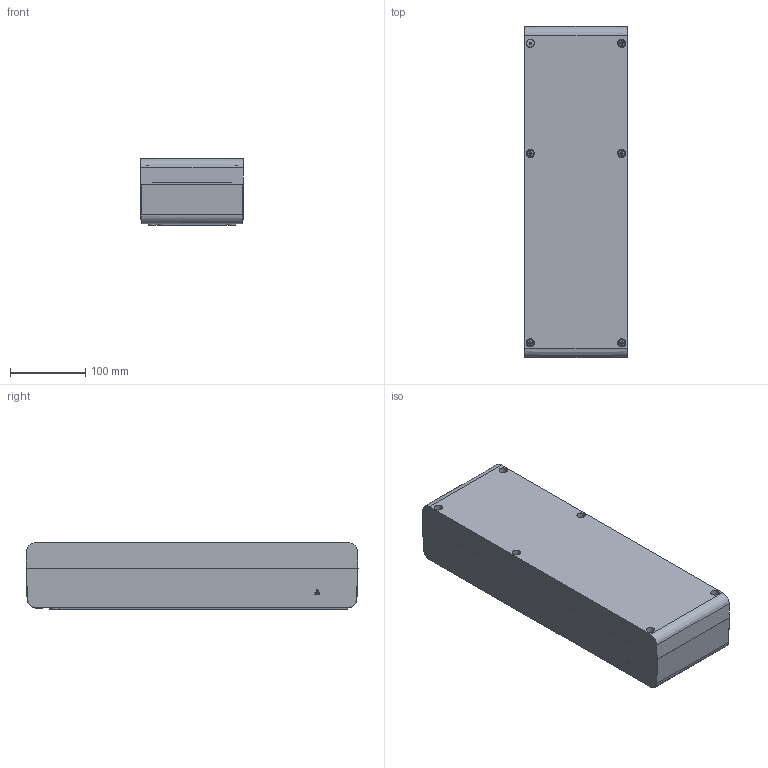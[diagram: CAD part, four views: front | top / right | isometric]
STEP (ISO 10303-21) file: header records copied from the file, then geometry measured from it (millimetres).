
FILE_DESCRIPTION(/* description */ (''),/* implementation_level */ '2;1');
FILE_NAME(/* name */ '4002284.stp',/* time_stamp */ '2020-02-07T08:03:04+01:00',/* author */ (''),/* organization */ (''),/* preprocessor_version */ 'ST-DEVELOPER v16.7',/* originating_system */ 'SIEMENS PLM Software NX 1892',/* authorisation */ '');
FILE_SCHEMA (('AUTOMOTIVE_DESIGN { 1 0 10303 214 3 1 1 1 }'));
Products named in the file (1): BSOM4AA8CF18bl3n
Bounding box: 136 x 440 x 88 mm (x, y, z)
Volume: 753105 mm3; surface area: 526560.1 mm2
Topology: 9 solids, 9 shells, 1717 faces, 4528 edges, 2886 vertices
Faces by surface type: plane 830, bspline 422, cylinder 285, cone 106, torus 46, extrusion 20, sphere 8
Full cylindrical faces by diameter (mm): 2.4 x4, 2.8 x6, 3 x19, 3.2 x6, 4 x6, 7.6 x6, 8.5 x4, 10 x6
Entity records: 71233 total; most frequent: CARTESIAN_POINT 32510, ORIENTED_EDGE 8604, DIRECTION 6990, EDGE_CURVE 4302, VERTEX_POINT 2822, AXIS2_PLACEMENT_3D 2363, VECTOR 2264, LINE 2244
